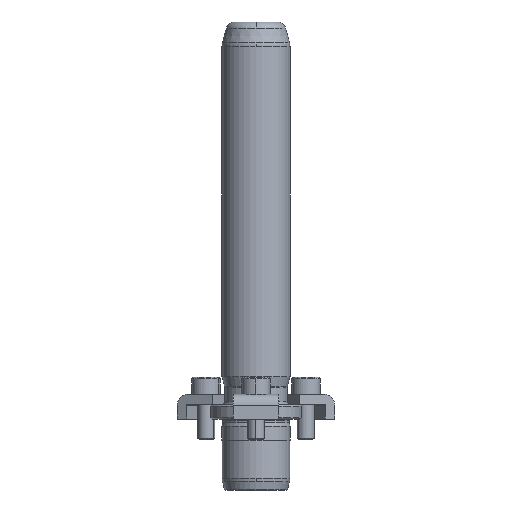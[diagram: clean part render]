
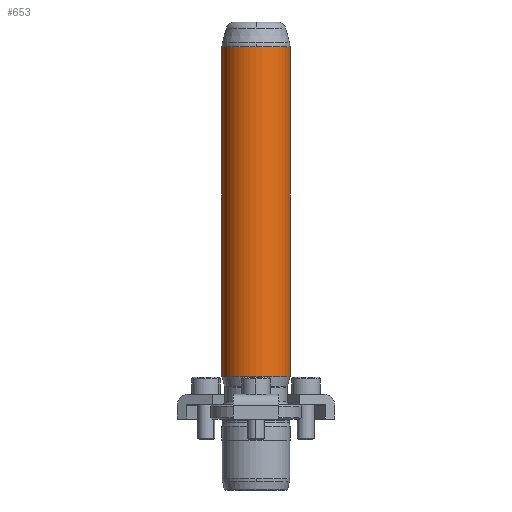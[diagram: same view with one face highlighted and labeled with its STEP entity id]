
A CAD part, front view. The second image highlights one B-rep face of the part: STEP entity #653.
In plain terms, the highlighted cylindrical face has radius 12 mm (diameter 24 mm), a partial arc.
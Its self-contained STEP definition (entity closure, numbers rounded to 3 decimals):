
#566=CARTESIAN_POINT('',(0.0,-12.,131.342));
#567=VERTEX_POINT('',#566);
#594=CARTESIAN_POINT('',(-12.0,0.,131.342));
#595=VERTEX_POINT('',#594);
#603=CARTESIAN_POINT('',(0.0,0.,131.342));
#604=DIRECTION('',(0.0,0.0,1.0));
#605=DIRECTION('',(1.0,0.0,0.0));
#606=AXIS2_PLACEMENT_3D('',#603,#604,#605);
#607=CIRCLE('',#606,12.0);
#608=EDGE_CURVE('',#595,#567,#607,.T.);
#613=CARTESIAN_POINT('',(0.0,0.,73.171));
#614=DIRECTION('',(0.0,0.,1.0));
#615=DIRECTION('',(1.0,0.0,0.0));
#616=AXIS2_PLACEMENT_3D('',#613,#614,#615);
#617=CYLINDRICAL_SURFACE('',#616,12.0);
#618=CARTESIAN_POINT('',(12.0,0.,131.342));
#619=VERTEX_POINT('',#618);
#620=CARTESIAN_POINT('',(12.0,0.,15.0));
#621=VERTEX_POINT('',#620);
#622=CARTESIAN_POINT('',(12.0,0.,131.342));
#623=DIRECTION('',(0.0,0.0,-1.0));
#624=VECTOR('',#623,116.342);
#625=LINE('',#622,#624);
#626=EDGE_CURVE('',#619,#621,#625,.T.);
#627=ORIENTED_EDGE('',*,*,#626,.F.);
#628=CARTESIAN_POINT('',(0.0,0.,131.342));
#629=DIRECTION('',(0.0,0.0,1.0));
#630=DIRECTION('',(1.0,0.0,0.0));
#631=AXIS2_PLACEMENT_3D('',#628,#629,#630);
#632=CIRCLE('',#631,12.0);
#633=EDGE_CURVE('',#567,#619,#632,.T.);
#634=ORIENTED_EDGE('',*,*,#633,.F.);
#635=ORIENTED_EDGE('',*,*,#608,.F.);
#636=CARTESIAN_POINT('',(-12.,0.,15.0));
#637=VERTEX_POINT('',#636);
#638=CARTESIAN_POINT('',(-12.0,0.,131.342));
#639=DIRECTION('',(0.0,0.0,-1.0));
#640=VECTOR('',#639,116.342);
#641=LINE('',#638,#640);
#642=EDGE_CURVE('',#595,#637,#641,.T.);
#643=ORIENTED_EDGE('',*,*,#642,.T.);
#644=CARTESIAN_POINT('',(0.0,0.,15.0));
#645=DIRECTION('',(0.0,0.0,1.0));
#646=DIRECTION('',(1.0,0.0,0.0));
#647=AXIS2_PLACEMENT_3D('',#644,#645,#646);
#648=CIRCLE('',#647,12.0);
#649=EDGE_CURVE('',#637,#621,#648,.T.);
#650=ORIENTED_EDGE('',*,*,#649,.T.);
#651=EDGE_LOOP('',(#627,#634,#635,#643,#650));
#652=FACE_OUTER_BOUND('',#651,.T.);
#653=ADVANCED_FACE('',(#652),#617,.T.);
